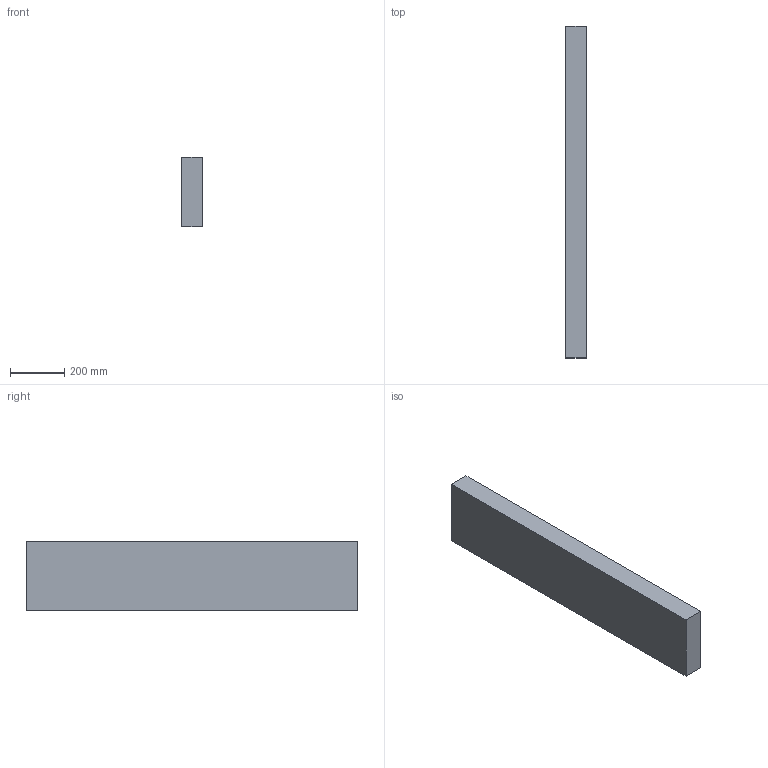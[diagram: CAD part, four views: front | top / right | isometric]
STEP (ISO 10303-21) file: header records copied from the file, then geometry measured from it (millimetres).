
FILE_DESCRIPTION(/* description */ (''),/* implementation_level */ '2;1');
FILE_NAME(/* name */ '3x10x48',/* time_stamp */ '2024-09-20T11:43:35-05:00',/* author */ (''),/* organization */ (''),/* preprocessor_version */ 'ST-DEVELOPER v19.2',/* originating_system */ 'Rhino 8.5',/* authorisation */ '');
FILE_SCHEMA (('CONFIG_CONTROL_DESIGN'));
Length unit declared in the file: inch
Products named in the file (1): Document
Bounding box: 76.2 x 1219.2 x 254 mm (x, y, z)
Volume: 23597372.2 mm3; surface area: 843869.3 mm2
Topology: 1 solids, 1 shells, 6 faces, 12 edges, 8 vertices
Faces by surface type: plane 6
Entity records: 226 total; most frequent: CARTESIAN_POINT 40, ORIENTED_EDGE 24, EDGE_CURVE 12, B_SPLINE_CURVE_WITH_KNOTS 12, DIRECTION 10, VERTEX_POINT 8, AXIS2_PLACEMENT_3D 8, ORGANIZATION 7
